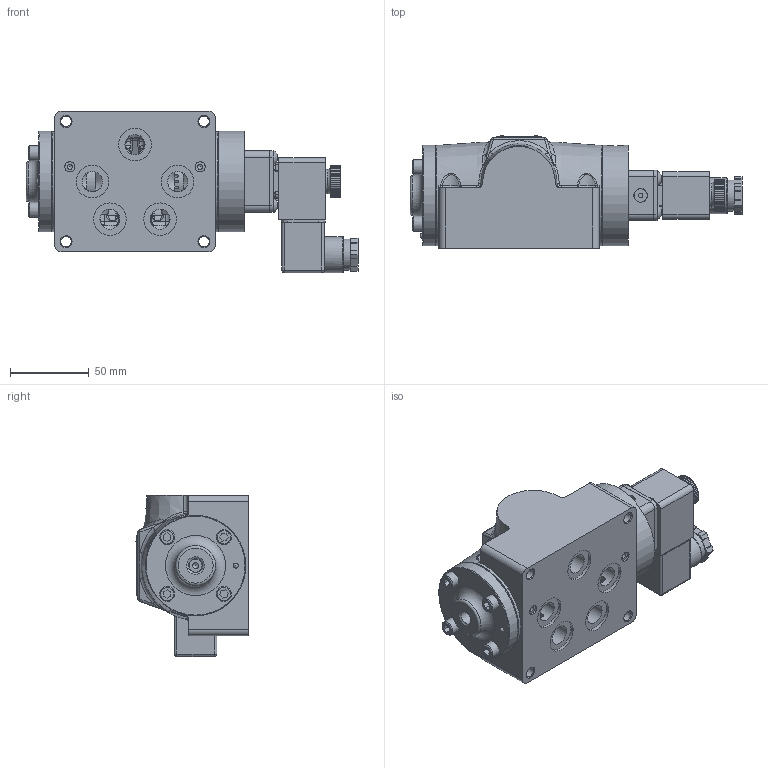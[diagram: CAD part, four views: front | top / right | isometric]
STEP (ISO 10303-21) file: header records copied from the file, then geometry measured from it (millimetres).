
FILE_DESCRIPTION(/* description */ (''),/* implementation_level */ '2;1');
FILE_NAME(/* name */ 'D:\Website Files\stp\Valves\Standard\ESR\ESR4PALZ.stp',/* time_stamp */ '2019-02-10T14:38:47-05:00',/* author */ ('RMcKenna'),/* organization */ (''),/* preprocessor_version */ 'ST-DEVELOPER v17',/* originating_system */ 'Autodesk Inventor 2018',/* authorisation */ '');
FILE_SCHEMA (('AUTOMOTIVE_DESIGN { 1 0 10303 214 3 1 1 }','AP242_MANAGED_MODEL_BASED_3D_ENGINEERING_MIM_LF { 1 0 10303 442 1 1 4 }'));
Products named in the file (1): Part39
Bounding box: 210.22 x 71.21 x 102.07 mm (x, y, z)
Volume: 585974.6 mm3; surface area: 141988.1 mm2
Topology: 2 solids, 41 shells, 2543 faces, 6402 edges, 4083 vertices
Faces by surface type: plane 1075, cylinder 627, cone 332, bspline 322, torus 159, sphere 28
Full cylindrical faces by diameter (mm): 1.3 x1, 1.397 x1, 1.5 x1, 1.651 x1, 2.032 x8, 2.07 x2, 2.261 x2, 2.35 x4, 2.388 x1, 2.5 x1, 2.778 x2, 2.8 x1, 2.819 x1, 2.845 x2, 3 x4, 3.048 x5, 3.175 x8, 3.4 x1, 3.683 x5, 3.962 x2, 4.064 x1, 4.191 x2, 4.826 x4, 4.953 x1, 4.978 x8, 5.15 x4, 5.156 x4, 5.385 x1, 5.5 x1, 5.537 x1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
Entity records: 91854 total; most frequent: CARTESIAN_POINT 30126, ORIENTED_EDGE 12708, DIRECTION 11555, EDGE_CURVE 6354, AXIS2_PLACEMENT_3D 4290, VERTEX_POINT 4083, LINE 2975, VECTOR 2975
